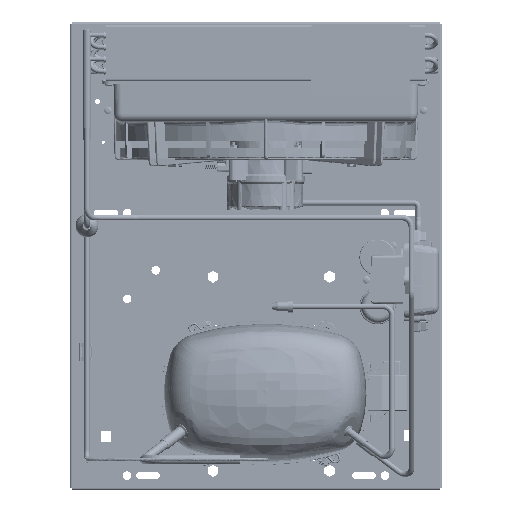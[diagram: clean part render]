
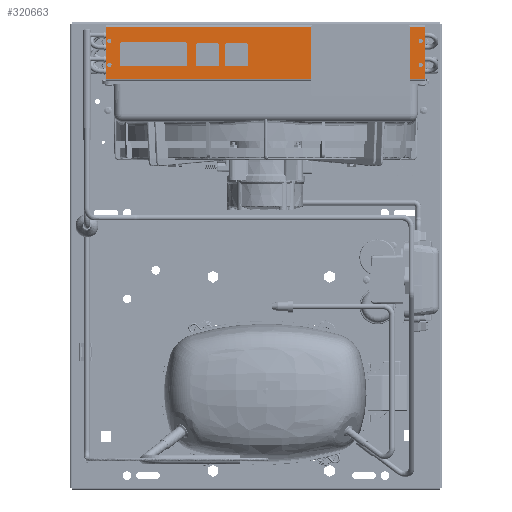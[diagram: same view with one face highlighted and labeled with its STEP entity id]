
A CAD part, top view. The second image highlights one B-rep face of the part: STEP entity #320663.
In plain terms, the highlighted planar face has unit normal (0, 0, 1).
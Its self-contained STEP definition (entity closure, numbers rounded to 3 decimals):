
#97898=LINE('',#418698,#113939);
#97908=LINE('',#418726,#113949);
#97918=LINE('',#418756,#113959);
#97919=LINE('',#418766,#113960);
#113939=VECTOR('',#360626,1000.);
#113949=VECTOR('',#360648,1000.);
#113959=VECTOR('',#360684,1000.);
#113960=VECTOR('',#360695,1000.);
#132471=ORIENTED_EDGE('',*,*,#207083,.F.);
#132472=ORIENTED_EDGE('',*,*,#207084,.F.);
#132473=ORIENTED_EDGE('',*,*,#207085,.F.);
#132474=ORIENTED_EDGE('',*,*,#207086,.F.);
#132475=ORIENTED_EDGE('',*,*,#207067,.T.);
#132476=ORIENTED_EDGE('',*,*,#207087,.F.);
#132477=ORIENTED_EDGE('',*,*,#207053,.F.);
#132478=ORIENTED_EDGE('',*,*,#207082,.T.);
#207053=EDGE_CURVE('',#244873,#244874,#97898,.T.);
#207067=EDGE_CURVE('',#244886,#244885,#97908,.T.);
#207082=EDGE_CURVE('',#244873,#244886,#97918,.T.);
#207083=EDGE_CURVE('',#244893,#244893,#269576,.T.);
#207084=EDGE_CURVE('',#244894,#244894,#269577,.T.);
#207085=EDGE_CURVE('',#244895,#244895,#269578,.T.);
#207086=EDGE_CURVE('',#244896,#244896,#269579,.T.);
#207087=EDGE_CURVE('',#244874,#244885,#97919,.T.);
#244873=VERTEX_POINT('',#418697);
#244874=VERTEX_POINT('',#418699);
#244885=VERTEX_POINT('',#418725);
#244886=VERTEX_POINT('',#418727);
#244893=VERTEX_POINT('',#418759);
#244894=VERTEX_POINT('',#418761);
#244895=VERTEX_POINT('',#418763);
#244896=VERTEX_POINT('',#418765);
#269576=CIRCLE('',#336894,2.25);
#269577=CIRCLE('',#336895,2.25);
#269578=CIRCLE('',#336896,2.25);
#269579=CIRCLE('',#336897,2.25);
#278265=EDGE_LOOP('',(#132471));
#278266=EDGE_LOOP('',(#132472));
#278267=EDGE_LOOP('',(#132473));
#278268=EDGE_LOOP('',(#132474));
#278269=EDGE_LOOP('',(#132475,#132476,#132477,#132478));
#296254=FACE_BOUND('',#278265,.T.);
#296255=FACE_BOUND('',#278266,.T.);
#296256=FACE_BOUND('',#278267,.T.);
#296257=FACE_BOUND('',#278268,.T.);
#296258=FACE_BOUND('',#278269,.T.);
#312640=PLANE('',#336893);
#320663=ADVANCED_FACE('',(#296254,#296255,#296256,#296257,#296258),#312640,
 .F.);
#336893=AXIS2_PLACEMENT_3D('',#418757,#360685,#360686);
#336894=AXIS2_PLACEMENT_3D('',#418758,#360687,#360688);
#336895=AXIS2_PLACEMENT_3D('',#418760,#360689,#360690);
#336896=AXIS2_PLACEMENT_3D('',#418762,#360691,#360692);
#336897=AXIS2_PLACEMENT_3D('',#418764,#360693,#360694);
#360626=DIRECTION('',(0.,1.,0.));
#360648=DIRECTION('',(0.,1.,0.));
#360684=DIRECTION('',(1.,0.,0.));
#360685=DIRECTION('',(0.,0.,-1.));
#360686=DIRECTION('',(-1.,0.,0.));
#360687=DIRECTION('',(0.,0.,1.));
#360688=DIRECTION('',(1.,0.,0.));
#360689=DIRECTION('',(0.,0.,1.));
#360690=DIRECTION('',(1.,0.,0.));
#360691=DIRECTION('',(0.,0.,1.));
#360692=DIRECTION('',(1.,0.,0.));
#360693=DIRECTION('',(0.,0.,1.));
#360694=DIRECTION('',(1.,0.,0.));
#360695=DIRECTION('',(1.,0.,0.));
#418697=CARTESIAN_POINT('',(-167.,-27.2,0.));
#418698=CARTESIAN_POINT('',(-167.,-29.,0.));
#418699=CARTESIAN_POINT('',(-167.,27.2,0.));
#418725=CARTESIAN_POINT('',(167.,27.2,0.));
#418726=CARTESIAN_POINT('',(167.,-29.,0.));
#418727=CARTESIAN_POINT('',(167.,-27.2,0.));
#418756=CARTESIAN_POINT('',(-167.,-27.2,0.));
#418757=CARTESIAN_POINT('',(-167.,-29.,0.));
#418758=CARTESIAN_POINT('',(-163.,12.5,0.));
#418759=CARTESIAN_POINT('',(-160.75,12.5,0.));
#418760=CARTESIAN_POINT('',(-163.,-12.5,0.));
#418761=CARTESIAN_POINT('',(-160.75,-12.5,0.));
#418762=CARTESIAN_POINT('',(163.,-12.5,0.));
#418763=CARTESIAN_POINT('',(165.25,-12.5,0.));
#418764=CARTESIAN_POINT('',(163.,12.5,0.));
#418765=CARTESIAN_POINT('',(165.25,12.5,0.));
#418766=CARTESIAN_POINT('',(-167.,27.2,0.));
